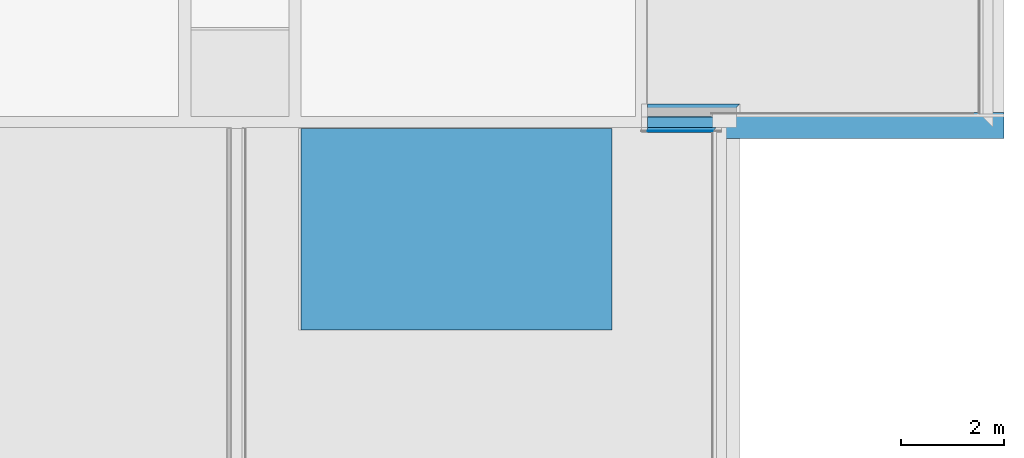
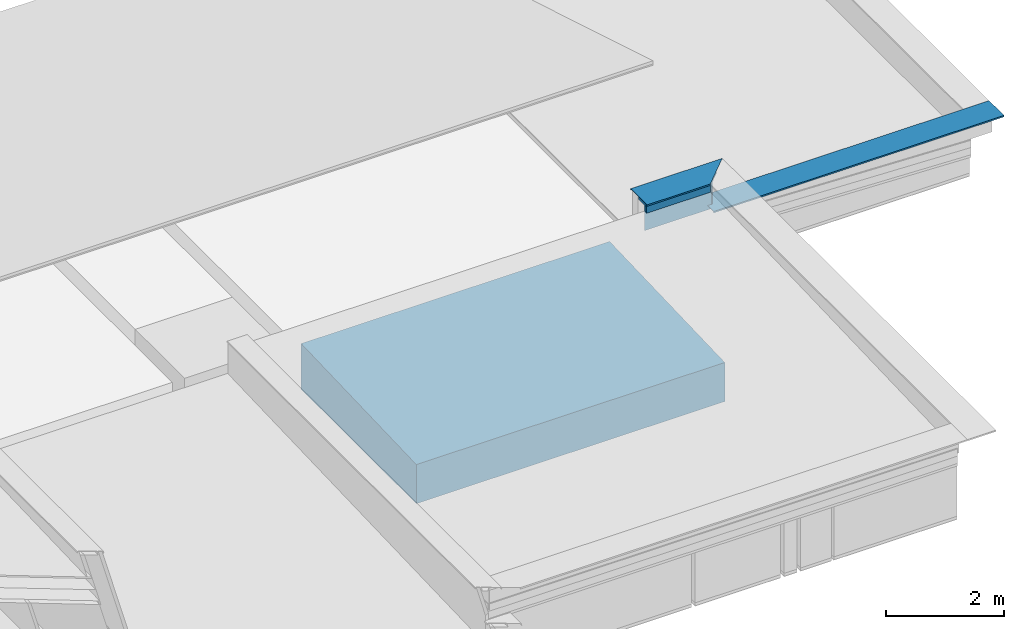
# One storey, part 10 of 13: 6 building element parts, 3 elements without a shape of their own.
"""IFC2X3 building model written with IfcOpenShell, lengths in metres."""

import ifcopenshell
import ifcopenshell.guid

model = None  # the IFC model being written
_history = None  # IfcOwnerHistory: only IFC2X3 demands one
_inside = {}  # id of a spatial element -> (the spatial element, [elements in it])
_under = {}  # id of a project, library or spatial element -> (it, [spatial elements below it])
_declared = {}  # id of a project -> (the project, [libraries it declares])
_typed = {}  # id of a type object -> (the type object, [elements of that type])
_made_of = {}  # id of a material, layer set ... -> (it, [elements and type objects made of it])


def new_model(schema):
    """Start an empty IFC model of exactly this schema.

    Asked for "IFC4X3", IfcOpenShell would pick the latest addendum, in which some entities
    have other attributes; the version numbers below select the first issue.
    IFC2X3 requires an IfcOwnerHistory on every rooted entity: one is made here for all.
    """
    global model, _history
    if schema == "IFC4X3":
        model = ifcopenshell.file(schema_version=(4, 3, 0, 0))
    else:
        model = ifcopenshell.file(schema=schema)
    _inside.clear()
    _under.clear()
    _declared.clear()
    _typed.clear()
    _made_of.clear()
    _history = None
    if model.schema == "IFC2X3":
        org = make("IfcOrganization", Name="unknown")
        user = make(
            "IfcPersonAndOrganization",
            ThePerson=make("IfcPerson", FamilyName="unknown"),
            TheOrganization=org,
        )
        app = make(
            "IfcApplication",
            ApplicationDeveloper=org,
            Version="unknown",
            ApplicationFullName="unknown",
            ApplicationIdentifier="unknown",
        )
        _history = make(
            "IfcOwnerHistory",
            OwningUser=user,
            OwningApplication=app,
            ChangeAction="ADDED",
            CreationDate=0,
        )
    return model


def make(cls, **values):
    """One entity of the class cls with the attributes given. An attribute that is None is left unset."""
    return model.create_entity(
        cls, **{name: value for name, value in values.items() if value is not None}
    )


def entity(cls, *values):
    """Any entity or typed value of the class cls, its attributes in the order of the schema. None: left unset."""
    e = model.create_entity(cls)
    for i, value in enumerate(values):
        if value is not None:
            e[i] = value
    return e


def rooted(cls, **values):
    """An entity with a GlobalId (a new one), such as an element, a storey or a relation."""
    return make(cls, GlobalId=ifcopenshell.guid.new(), OwnerHistory=_history, **values)


def si_unit(unit_type, name, prefix=None):
    """IfcSIUnit, for example si_unit("LENGTHUNIT", "METRE", prefix="MILLI")."""
    return make("IfcSIUnit", UnitType=unit_type, Prefix=prefix, Name=name)


def converted_unit(unit_type, name, factor, base, dimensions=None, offset=None):
    """IfcConversionBasedUnit, such as the inch: factor (a typed value) times the base unit."""
    return make(
        "IfcConversionBasedUnit"
        if offset is None
        else "IfcConversionBasedUnitWithOffset",
        ConversionOffset=offset,
        Dimensions=None
        if dimensions is None
        else entity("IfcDimensionalExponents", *dimensions),
        UnitType=unit_type,
        Name=name,
        ConversionFactor=make(
            "IfcMeasureWithUnit", ValueComponent=factor, UnitComponent=base
        ),
    )


def derived_unit(unit_type, elements):
    """IfcDerivedUnit: a product of units, each with its exponent."""
    return make(
        "IfcDerivedUnit",
        Elements=[
            make("IfcDerivedUnitElement", Unit=unit, Exponent=power)
            for unit, power in elements
        ],
        UnitType=unit_type,
    )


def money_unit(currency):
    """IfcMonetaryUnit."""
    return make("IfcMonetaryUnit", Currency=currency)


def assignment(units):
    """IfcUnitAssignment: the units of a project."""
    return None if units is None else make("IfcUnitAssignment", Units=units)


def point(xyz):
    """IfcCartesianPoint."""
    return None if xyz is None else make("IfcCartesianPoint", Coordinates=xyz)


def direction(xyz):
    """IfcDirection."""
    return None if xyz is None else make("IfcDirection", DirectionRatios=xyz)


def frame(location, z_axis=None, x_axis=None):
    """IfcAxis2Placement3D, a coordinate frame: its origin and axes. An axis left out is left unset."""
    return make(
        "IfcAxis2Placement3D",
        Location=point(location),
        Axis=direction(z_axis),
        RefDirection=direction(x_axis),
    )


def origin_with_axes():
    """The frame at (0, 0, 0) with the z axis (0, 0, 1) and the x axis (1, 0, 0) written out."""
    return frame((0.0, 0.0, 0.0), z_axis=(0.0, 0.0, 1.0), x_axis=(1.0, 0.0, 0.0))


def place(relative_to, where):
    """IfcLocalPlacement: puts the frame where relative to a parent placement (None: the world)."""
    return make(
        "IfcLocalPlacement", PlacementRelTo=relative_to, RelativePlacement=where
    )


def context(
    kind, dimensions, precision=None, world=None, true_north=None, identifier=None
):
    """IfcGeometricRepresentationContext, for example the 3D "Model" context."""
    return make(
        "IfcGeometricRepresentationContext",
        ContextIdentifier=identifier,
        ContextType=kind,
        CoordinateSpaceDimension=dimensions,
        Precision=precision,
        WorldCoordinateSystem=world,
        TrueNorth=true_north,
    )


def subcontext(parent, identifier, kind, view, scale=None):
    """IfcGeometricRepresentationSubContext, for example "Body" below "Model"."""
    return make(
        "IfcGeometricRepresentationSubContext",
        ContextIdentifier=identifier,
        ContextType=kind,
        ParentContext=parent,
        TargetScale=scale,
        TargetView=view,
    )


def project(units=None, contexts=None):
    """IfcProject with its units and contexts."""
    return rooted(
        "IfcProject",
        Name="project",
        RepresentationContexts=contexts,
        UnitsInContext=assignment(units),
    )


def spatial(cls, under=None, at=None, **own):
    """A site, building, storey or space (cls), placed at a placement, below another one or the project."""
    s = rooted(cls, ObjectPlacement=at, **own)
    if under is not None:
        _under.setdefault(under.id(), (under, []))[1].append(s)
    return s


def polyline(points):
    """IfcPolyline through the points."""
    return make("IfcPolyline", Points=[point(p) for p in points])


def outline(outer, holes=None, kind="AREA"):
    """IfcArbitraryClosedProfileDef: a profile drawn as a closed curve; with holes, ...WithVoids."""
    if holes is None:
        return make("IfcArbitraryClosedProfileDef", ProfileType=kind, OuterCurve=outer)
    return make(
        "IfcArbitraryProfileDefWithVoids",
        ProfileType=kind,
        OuterCurve=outer,
        InnerCurves=holes,
    )


def extrude(swept, where, along, depth):
    """IfcExtrudedAreaSolid: the profile swept, set in the frame where, extruded along a direction by depth."""
    return make(
        "IfcExtrudedAreaSolid",
        SweptArea=swept,
        Position=where,
        ExtrudedDirection=direction(along),
        Depth=depth,
    )


def boolean(op, a, b):
    """IfcBooleanResult of two solids."""
    return make("IfcBooleanResult", Operator=op, FirstOperand=a, SecondOperand=b)


def faces_of(points, faces, orient=None, outer=None):
    """IfcFace entities. A face is a list of loops; a loop is a list of indices into points, from 0.

    orient and outer hold one flag for each loop. By default every Orientation is true, the
    first loop of a face is its IfcFaceOuterBound and the others are IfcFaceBound.
    """
    made = []
    for i, loops in enumerate(faces):
        bounds = []
        for j, loop in enumerate(loops):
            is_outer = j == 0 if outer is None else outer[i][j]
            bounds.append(
                make(
                    "IfcFaceOuterBound" if is_outer else "IfcFaceBound",
                    Bound=make("IfcPolyLoop", Polygon=[points[k] for k in loop]),
                    Orientation=True if orient is None else orient[i][j],
                )
            )
        made.append(make("IfcFace", Bounds=bounds))
    return made


def faceted_brep(points, faces, orient=None, outer=None, voids=None):
    """IfcFacetedBrep: a solid bounded by flat faces; with voids (closed shells), ...WithVoids."""
    shared = [point(p) for p in points]
    hull = make("IfcClosedShell", CfsFaces=faces_of(shared, faces, orient, outer))
    if voids is None:
        return make("IfcFacetedBrep", Outer=hull)
    return make(
        "IfcFacetedBrepWithVoids",
        Outer=hull,
        Voids=[
            make(cls, CfsFaces=faces_of(shared, fs, o, b)) for cls, fs, o, b in voids
        ],
    )


def shape(context_of_items, identifier, shape_type, items):
    """IfcShapeRepresentation: the items that make up one representation, for example the "Body"."""
    return make(
        "IfcShapeRepresentation",
        ContextOfItems=context_of_items,
        RepresentationIdentifier=identifier,
        RepresentationType=shape_type,
        Items=items,
    )


def material(Name=None, Category=None):
    """IfcMaterial."""
    return make("IfcMaterial", Name=Name, Category=Category)


def made_of(thing, what):
    """Note that an element or type object is made of a material, layer set ...; save() writes the relation."""
    if what is not None:
        _made_of.setdefault(what.id(), (what, []))[1].append(thing)
    return thing


def type_object(cls, material=None, **own):
    """A type object (cls), such as IfcWallType, which elements share."""
    return made_of(rooted(cls, **own), material)


def element(
    cls,
    number,
    at=None,
    inside=None,
    cuts=None,
    type_object=None,
    material=None,
    context=None,
    identifier="Body",
    shape_type=None,
    held_by="IfcProductDefinitionShape",
    body=None,
    shapes=None,
    **own,
):
    """One element of the class cls, such as IfcWall. Its Tag is "e" and its number.

    at: its placement. inside: the storey or other place that contains it. cuts: it is an
    opening in that element (IfcRelVoidsElement). A single representation is given by context,
    identifier, shape_type and body (its items); several are given by shapes. held_by: the class
    of the entity that holds the representations. save() writes the other relations.
    """
    e = rooted(cls, Tag="e%d" % number, ObjectPlacement=at, **own)
    if body is not None:
        shapes = [shape(context, identifier, shape_type, body)]
    if shapes is not None:
        e.Representation = make(held_by, Representations=shapes)
    if inside is not None:
        _inside.setdefault(inside.id(), (inside, []))[1].append(e)
    if cuts is not None:
        rooted(
            "IfcRelVoidsElement", RelatingBuildingElement=cuts, RelatedOpeningElement=e
        )
    if type_object is not None:
        _typed.setdefault(type_object.id(), (type_object, []))[1].append(e)
    return made_of(e, material)


def aggregate(whole, parts):
    """IfcRelAggregates: a whole, such as a stair, and the parts it consists of."""
    return rooted("IfcRelAggregates", RelatingObject=whole, RelatedObjects=parts)


def save(model, path):
    """Write the relations noted so far, then the file.

    IfcRelAggregates (storeys below a building ...), IfcRelContainedInSpatialStructure (elements
    in a storey), IfcRelDefinesByType, IfcRelAssociatesMaterial and IfcRelDeclares: one each for
    every whole, place, type object, material and project.
    """
    for whole, parts in _under.values():
        aggregate(whole, parts)
    for where, things in _inside.values():
        rooted(
            "IfcRelContainedInSpatialStructure",
            RelatedElements=things,
            RelatingStructure=where,
        )
    for kind, things in _typed.values():
        rooted("IfcRelDefinesByType", RelatedObjects=things, RelatingType=kind)
    for what, things in _made_of.values():
        rooted("IfcRelAssociatesMaterial", RelatedObjects=things, RelatingMaterial=what)
    for by, libraries in _declared.values():
        rooted("IfcRelDeclares", RelatingContext=by, RelatedDefinitions=libraries)
    model.write(path)


model = new_model("IFC2X3")

# Units and contexts
model_context = context("Model", 3, precision=1e-05, world=origin_with_axes(), true_north=direction((0.0, 1.0)))
body_context = subcontext(model_context, "Body", "Model", "MODEL_VIEW")
ifc_project = project(units=[si_unit("LENGTHUNIT", "METRE"), si_unit("AREAUNIT", "SQUARE_METRE"), si_unit("VOLUMEUNIT", "CUBIC_METRE"), converted_unit("PLANEANGLEUNIT", "DEGREE", entity("IfcPlaneAngleMeasure", 0.0174532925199), si_unit("PLANEANGLEUNIT", "RADIAN"), dimensions=[0, 0, 0, 0, 0, 0, 0]), money_unit("CHF"), converted_unit("TIMEUNIT", "Year", entity("IfcTimeMeasure", 31556926.0), si_unit("TIMEUNIT", "SECOND"), dimensions=[0, 0, 1, 0, 0, 0, 0]), si_unit("MASSUNIT", "GRAM", prefix="KILO"), si_unit("THERMODYNAMICTEMPERATUREUNIT", "DEGREE_CELSIUS"), si_unit("LUMINOUSINTENSITYUNIT", "LUMEN"), si_unit("ENERGYUNIT", "JOULE", prefix="MEGA"), derived_unit("THERMALCONDUCTANCEUNIT", [(si_unit("POWERUNIT", "WATT"), 1), (si_unit("LENGTHUNIT", "METRE"), -1), (si_unit("THERMODYNAMICTEMPERATUREUNIT", "KELVIN"), -1)]), derived_unit("SPECIFICHEATCAPACITYUNIT", [(si_unit("ENERGYUNIT", "JOULE"), 1), (si_unit("MASSUNIT", "GRAM", prefix="KILO"), -1), (si_unit("THERMODYNAMICTEMPERATUREUNIT", "KELVIN"), -1)]), derived_unit("MASSDENSITYUNIT", [(si_unit("MASSUNIT", "GRAM", prefix="KILO"), 1), (si_unit("VOLUMEUNIT", "CUBIC_METRE"), -1)])], contexts=[model_context])

# Site, building, storey
site_placement = place(None, origin_with_axes())
site = spatial("IfcSite", under=ifc_project, at=site_placement, Name="Site", CompositionType="ELEMENT")
building_placement = place(site_placement, origin_with_axes())
building = spatial("IfcBuilding", under=site, at=building_placement, Name="Bâtiment", CompositionType="ELEMENT")
storey_placement = place(building_placement, frame((0.0, 0.0, 3.0), z_axis=(0.0, 0.0, 1.0), x_axis=(1.0, 0.0, 0.0)))
storey = spatial("IfcBuildingStorey", under=building, at=storey_placement, Name="Toitures", CompositionType="ELEMENT", Elevation=3.0)

# Slab, building element part
slab_type = type_object("IfcSlabType", Name="Plafond dalles minérale 2570", PredefinedType="FLOOR")
slab_placement = place(storey_placement, frame((31.6294697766, 14.8800000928, 2.47), z_axis=(0.0, 0.0, 1.0), x_axis=(1.0, 0.0, 0.0)))
slab = element("IfcSlab", 1, at=slab_placement, inside=storey, type_object=slab_type, Name="Faux plafonds suspendus", PredefinedType="FLOOR")
ifc_material_1 = material(Name="Vide faux plafond")
building_element_part_1_placement = place(slab_placement, origin_with_axes())
building_element_part_1 = element("IfcBuildingElementPart", 2, at=building_element_part_1_placement, material=ifc_material_1, Name="Vide faux plafond", context=body_context, shape_type="CSG", body=[
    boolean("DIFFERENCE", extrude(outline(polyline([(0.0, 0.0), (-6.03000008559, -1.07356783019e-07), (-6.03000001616, -3.89987444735), (6.94324988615e-08, -3.89987433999), (0.0, 0.0)])), frame((0.0, 0.0, -2.5), z_axis=(0.0, 0.0, 1.0), x_axis=(1.0, 0.0, 0.0)), (0.0, 0.0, 1.0), 2.5), faceted_brep([(6.94324988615e-08, -3.89987433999, -1.69219559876), (0.0, 0.0, -1.55569999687), (0.0, 0.0, 0.0), (6.94324988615e-08, -3.89987433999, 0.0), (-6.03000008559, -1.07356783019e-07, -1.55570000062), (-6.03000001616, -3.89987444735, -1.69219560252), (-6.03000008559, -1.07356783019e-07, 0.0), (-6.03000001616, -3.89987444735, 0.0)], [[[0, 1, 2, 3]], [[4, 1, 0, 5]], [[1, 4, 6, 2]], [[7, 3, 2, 6]], [[5, 0, 3, 7]], [[4, 5, 7, 6]]])),
])
aggregate(slab, [building_element_part_1])

# Beam, building element part
beam_type_1 = type_object("IfcBeamType", Name="couvertine mur iso 505 x 590", PredefinedType="BEAM")
beam_1_placement = place(storey_placement, frame((38.9194697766, 15.0031256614, 0.97), z_axis=(0.0, 0.0, 1.0), x_axis=(0.0, 1.0, 0.0)))
beam_1 = element("IfcBeam", 3, at=beam_1_placement, inside=storey, type_object=beam_type_1, Name="POUTRE-003", ObjectType="BEAM")
ifc_material_2 = material(Name="Aluminium")
building_element_part_2_placement = place(beam_1_placement, origin_with_axes())
building_element_part_2 = element("IfcBuildingElementPart", 4, at=building_element_part_2_placement, material=ifc_material_2, Name="Aluminium", context=body_context, shape_type="CSG", body=[
    boolean("DIFFERENCE", boolean("DIFFERENCE", boolean("DIFFERENCE", boolean("DIFFERENCE", boolean("DIFFERENCE", boolean("DIFFERENCE", boolean("DIFFERENCE", boolean("DIFFERENCE", extrude(outline(polyline([(0.194999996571, -1.56462309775e-09), (-0.31, -1.56462309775e-09), (-0.31, -0.03000000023), (-0.3049999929, -0.03000000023), (-0.3049999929, -0.0049999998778), (-0.100000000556, -0.0049999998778), (0.164999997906, -0.0049999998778), (0.175000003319, -0.0049999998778), (0.189999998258, -0.0049999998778), (0.189999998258, -0.03000000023), (0.194999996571, -0.03000000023), (0.194999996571, -1.56462309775e-09)])), frame((0.0, 5.36502, 0.0), z_axis=(0.0, -1.0, 0.0), x_axis=(1.0, 0.0, 0.0)), (0.0, 0.0, 1.0), 5.67504), faceted_brep([(0.174999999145, 5.365, -0.0896396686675), (0.174999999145, 5.365, -0.411392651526), (0.174999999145, 0.272228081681, -0.589639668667), (0.174999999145, 5.36502, -0.589639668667), (0.174999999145, 5.36502, -0.005), (0.174999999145, 5.34499999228, -0.005), (0.174999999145, 5.34499999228, -0.0896396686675), (0.164999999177, 5.365, -0.0896396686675), (0.164999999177, 5.365, -0.411392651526), (0.164999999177, 0.272228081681, -0.589639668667), (0.164999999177, 5.36502, -0.589639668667), (0.164999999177, 5.36502, -0.0549999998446), (0.164999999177, 5.36502, -0.005), (0.164999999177, 5.34499999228, -0.005), (0.164999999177, 5.34499999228, -0.0549999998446), (0.164999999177, 5.34499999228, -0.0896396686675)], [[[0, 1, 2, 3, 4, 5, 6]], [[1, 0, 7, 8]], [[9, 2, 1, 8]], [[2, 9, 10, 3]], [[3, 10, 11, 12, 4]], [[13, 5, 4, 12]], [[6, 5, 13, 14, 15]], [[0, 6, 15, 7]], [[15, 14, 11, 10, 9, 8, 7]], [[14, 13, 12, 11]]])), faceted_brep([(0.174999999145, 0.174999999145, -0.005), (0.164999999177, 0.164999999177, -0.005), (0.164999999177, -0.31002, -0.005), (0.174999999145, -0.31002, -0.005), (0.164999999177, 0.164999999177, -0.0549999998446), (0.174999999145, 0.174999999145, -0.589639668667), (0.164999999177, 0.164999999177, -0.589639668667), (0.164999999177, -0.31002, -0.0549999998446), (0.164999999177, -0.31002, -0.589639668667), (0.174999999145, -0.31002, -0.589639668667)], [[[0, 1, 2, 3]], [[4, 1, 0, 5, 6]], [[1, 4, 7, 2]], [[3, 2, 7, 8, 9]], [[5, 0, 3, 9]], [[6, 5, 9, 8]], [[4, 6, 8, 7]]])), faceted_brep([(0.116874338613, 5.34499999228, -1.56462309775e-09), (0.116999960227, 5.34499999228, -1.56462309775e-09), (0.116999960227, 4.88, -1.56462309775e-09), (0.194999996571, 4.88, -1.56462309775e-09), (0.194999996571, 5.36502, -1.56462309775e-09), (-0.31, 5.36502, -1.56462309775e-09), (-0.31, 4.88, -1.56462309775e-09), (0.116874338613, 4.88, -1.56462309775e-09), (0.116874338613, 5.07, -1.56462309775e-09), (0.116999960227, 5.34499999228, -0.005), (0.116874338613, 5.34499999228, -0.005), (0.116999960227, 4.88, -0.00499999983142), (0.189999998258, 4.88, -0.03000000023), (0.194999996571, 4.88, -0.03000000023), (0.165, 4.88, -0.005), (0.175000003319, 4.88, -0.0049999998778), (0.189999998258, 4.88, -0.0049999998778), (0.194999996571, 5.36502, -0.03000000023), (-0.31, 5.36502, -0.03000000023), (0.189999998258, 5.36502, -0.03000000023), (0.189999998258, 5.36502, -0.0049999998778), (0.175000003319, 5.36502, -0.0049999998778), (0.164999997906, 5.36502, -0.0049999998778), (-0.100000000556, 5.36502, -0.0049999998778), (-0.3049999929, 5.36502, -0.0049999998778), (-0.3049999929, 5.36502, -0.03000000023), (-0.31, 4.88, -0.03000000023), (0.116874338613, 4.88, -0.00499999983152), (-0.3049999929, 4.88, -0.03000000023), (-0.3049999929, 4.88, -0.0049999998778), (-0.1, 4.88, -0.005), (0.116874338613, 5.07, -0.00499999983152)], [[[0, 1, 2, 3, 4, 5, 6, 7, 8]], [[9, 1, 0, 10]], [[11, 2, 1, 9]], [[12, 13, 3, 2, 11, 14, 15, 16]], [[4, 3, 13, 17]], [[18, 5, 4, 17, 19, 20, 21, 22, 23, 24, 25]], [[18, 26, 6, 5]], [[27, 7, 6, 26, 28, 29, 30]], [[31, 8, 7, 27]], [[10, 0, 8, 31]], [[31, 27, 30, 23, 22, 14, 11, 9, 10]], [[17, 13, 12, 19]], [[21, 15, 14, 22]], [[20, 16, 15, 21]], [[19, 12, 16, 20]], [[23, 30, 29, 24]], [[24, 29, 28, 25]], [[25, 28, 26, 18]]])), faceted_brep([(0.194999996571, -0.31002, -1.56462309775e-09), (0.194999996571, 0.194999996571, -1.56462309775e-09), (-0.31, -0.31, -1.56462309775e-09), (-0.31, -0.31002, -1.56462309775e-09), (0.194999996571, -0.31002, -0.03000000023), (0.194999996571, 0.194999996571, -0.03000000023), (-0.3049999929, -0.3049999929, -0.03000000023), (-0.31, -0.31, -0.03000000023), (0.189999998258, 0.189999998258, -0.03000000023), (0.189999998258, 0.189999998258, -0.0049999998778), (0.175000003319, 0.175000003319, -0.0049999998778), (0.165, 0.165, -0.005), (-0.1, -0.1, -0.005), (-0.3049999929, -0.3049999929, -0.0049999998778), (-0.31, -0.31002, -0.03000000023), (0.189999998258, -0.31002, -0.03000000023), (-0.3049999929, -0.31002, -0.03000000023), (-0.3049999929, -0.31002, -0.0049999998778), (-0.100000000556, -0.31002, -0.0049999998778), (0.164999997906, -0.31002, -0.0049999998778), (0.175000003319, -0.31002, -0.0049999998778), (0.189999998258, -0.31002, -0.0049999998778)], [[[0, 1, 2, 3]], [[4, 5, 1, 0]], [[6, 7, 2, 1, 5, 8, 9, 10, 11, 12, 13]], [[3, 2, 7, 14]], [[15, 4, 0, 3, 14, 16, 17, 18, 19, 20, 21]], [[15, 8, 5, 4]], [[14, 7, 6, 16]], [[21, 9, 8, 15]], [[20, 10, 9, 21]], [[19, 11, 10, 20]], [[18, 12, 11, 19]], [[17, 13, 12, 18]], [[16, 6, 13, 17]]])), faceted_brep([(0.164999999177, 5.34499999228, -0.0896396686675), (0.164999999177, 5.365, -0.0896396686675), (0.164999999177, 5.365, -0.411392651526), (0.164999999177, 0.272228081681, -0.589639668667), (0.164999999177, 5.36502, -0.589639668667), (0.164999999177, 5.36502, -0.0549999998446), (0.164999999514, 5.34499999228, -0.0549999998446), (0.0999999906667, 5.365, -0.0896396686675), (0.0999999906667, 5.34499999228, -0.0896396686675), (0.0999999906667, 5.365, -0.411392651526), (0.0999999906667, 0.272228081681, -0.589639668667), (0.0999999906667, 5.36502, -0.589639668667), (0.0999999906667, 5.36502, -0.0549999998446), (0.0999999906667, 5.34499999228, -0.0549999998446)], [[[0, 1, 2, 3, 4, 5, 6]], [[7, 1, 0, 8]], [[9, 2, 1, 7]], [[9, 10, 3, 2]], [[4, 3, 10, 11]], [[5, 4, 11, 12]], [[12, 13, 6, 5]], [[8, 0, 6, 13]], [[7, 8, 13, 12, 11, 10, 9]]])), faceted_brep([(0.164999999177, -0.31002, -0.0549999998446), (0.16499999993, 0.16499999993, -0.0549999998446), (0.0999999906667, 0.0999999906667, -0.0549999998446), (0.0999999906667, -0.31002, -0.0549999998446), (0.164999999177, -0.31002, -0.589639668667), (0.164999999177, 0.164999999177, -0.589639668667), (0.0999999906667, 0.0999999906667, -0.589639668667), (0.0999999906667, -0.31002, -0.589639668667)], [[[0, 1, 2, 3]], [[4, 5, 1, 0]], [[5, 6, 2, 1]], [[3, 2, 6, 7]], [[0, 3, 7, 4]], [[7, 6, 5, 4]]])), faceted_brep([(-0.1, 5.36502, -0.005), (-0.1, 5.34499999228, -0.005), (0.165, 5.34499999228, -0.005), (0.165, 5.36502, -0.005), (-0.1, 5.36502, -0.055), (-0.1, 5.34499999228, -0.055), (0.0999999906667, 5.34499999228, -0.0549999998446), (0.164999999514, 5.34499999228, -0.055), (0.165, 5.36502, -0.055), (0.0999999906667, 5.36502, -0.0549999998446)], [[[0, 1, 2, 3]], [[4, 5, 1, 0]], [[6, 7, 2, 1, 5]], [[3, 2, 7, 8]], [[9, 4, 0, 3, 8]], [[9, 6, 5, 4]], [[8, 7, 6, 9]]])), faceted_brep([(0.165, -0.31002, -0.005), (0.165, 0.165, -0.005), (-0.1, -0.1, -0.005), (-0.1, -0.31002, -0.005), (0.165, -0.31002, -0.055), (0.16499999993, 0.16499999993, -0.055), (0.0999999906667, 0.0999999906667, -0.0549999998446), (-0.1, -0.1, -0.055), (-0.1, -0.31002, -0.055), (0.0999999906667, -0.31002, -0.0549999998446)], [[[0, 1, 2, 3]], [[4, 5, 1, 0]], [[6, 7, 2, 1, 5]], [[3, 2, 7, 8]], [[4, 0, 3, 8, 9]], [[9, 6, 5, 4]], [[8, 7, 6, 9]]])),
])
aggregate(beam_1, [building_element_part_2])

# Beam, building element parts
beam_type_2 = type_object("IfcBeamType", Name="Couvertine mur bardage 555 x 590", PredefinedType="BEAM")
beam_2_placement = place(storey_placement, frame((33.7494697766, 15.0031256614, 1.47), z_axis=(0.0, 0.0, 1.0), x_axis=(0.0, 1.0, 0.0)))
beam_2 = element("IfcBeam", 5, at=beam_2_placement, inside=storey, type_object=beam_type_2, Name="POUTRE-003", ObjectType="BEAM")
ifc_material_3 = material(Name="Etanchéité")
building_element_part_3_placement = place(beam_2_placement, origin_with_axes())
building_element_part_3 = element("IfcBuildingElementPart", 6, at=building_element_part_3_placement, material=ifc_material_3, Name="Etanchéité", context=body_context, shape_type="CSG", body=[
    boolean("DIFFERENCE", boolean("DIFFERENCE", boolean("DIFFERENCE", boolean("DIFFERENCE", extrude(outline(polyline([(-0.175, -0.589639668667), (-0.165000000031, -0.589639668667), (-0.165000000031, -0.0549999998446), (-0.165000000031, -0.005), (-0.175, -0.005), (-0.175, -0.589639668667)])), frame((0.0, 1.43, 0.0), z_axis=(0.0, -1.0, 0.0), x_axis=(1.0, 0.0, 0.0)), (0.0, 0.0, 1.0), 1.79002000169), faceted_brep([(-0.165000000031, 0.165000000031, -0.0549999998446), (-0.165000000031, 0.165000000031, -0.005), (-0.165000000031, -0.360020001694, -0.005), (-0.165000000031, -0.360020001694, -0.0549999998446), (-0.175, 0.175, -0.005), (-0.165000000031, 0.165000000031, -0.186939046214), (-0.175, 0.175, -0.187289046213), (-0.175, -0.360020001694, -0.005), (-0.175, -0.360020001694, -0.589639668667), (-0.165000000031, -0.360020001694, -0.589639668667), (-0.165000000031, 1.43, -0.589639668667), (-0.165000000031, 1.43, -0.186939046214), (-0.175, 1.43, -0.187289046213), (-0.175, 1.43, -0.589639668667)], [[[0, 1, 2, 3]], [[4, 1, 0, 5, 6]], [[1, 4, 7, 2]], [[2, 7, 8, 9, 3]], [[5, 0, 3, 9, 10, 11]], [[5, 11, 12, 6]], [[6, 12, 13, 8, 7, 4]], [[9, 8, 13, 10]], [[12, 11, 10, 13]]])), faceted_brep([(0.360000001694, -0.360020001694, -0.029999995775), (0.360000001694, -0.360000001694, -0.029999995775), (0.360000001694, -0.360000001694, 3.12924708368e-09), (0.360000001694, -0.360020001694, 3.12924708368e-09), (0.354999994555, -0.360020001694, -0.029999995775), (0.354999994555, -0.354999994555, -0.029999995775), (-0.195, 0.195, -0.029999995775), (-0.195, 0.195, 3.12924708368e-09), (0.354999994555, -0.354999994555, -0.00499999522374), (0.1, -0.1, -0.005), (-0.165, 0.165, -0.005), (-0.174999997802, 0.174999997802, -0.00500000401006), (-0.190000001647, 0.190000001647, -0.00499999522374), (-0.190000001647, 0.190000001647, -0.029999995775), (-0.195, -0.360020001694, 3.12924708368e-09), (-0.195, -0.360020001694, -0.029999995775), (-0.190000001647, -0.360020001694, -0.029999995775), (-0.190000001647, -0.360020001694, -0.00499999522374), (-0.174999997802, -0.360020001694, -0.00500000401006), (-0.165000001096, -0.360020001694, -0.00500000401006), (0.0999999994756, -0.360020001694, -0.00499999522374), (0.354999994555, -0.360020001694, -0.00499999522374)], [[[0, 1, 2, 3]], [[4, 5, 1, 0]], [[6, 7, 2, 1, 5, 8, 9, 10, 11, 12, 13]], [[3, 2, 7, 14]], [[3, 14, 15, 16, 17, 18, 19, 20, 21, 4, 0]], [[21, 8, 5, 4]], [[14, 7, 6, 15]], [[20, 9, 8, 21]], [[19, 10, 9, 20]], [[18, 11, 10, 19]], [[17, 12, 11, 18]], [[16, 13, 12, 17]], [[15, 6, 13, 16]]])), faceted_brep([(-0.0999999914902, -0.360020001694, -0.589639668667), (-0.0999999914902, 0.0999999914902, -0.589639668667), (-0.0999999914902, 0.0999999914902, -0.0549999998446), (-0.0999999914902, -0.360020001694, -0.0549999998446), (-0.103125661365, 0.119999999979, -0.589639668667), (-0.119999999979, 0.119999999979, -0.589639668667), (-0.165, -0.360020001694, -0.589639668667), (-0.165, 1.43, -0.589639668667), (-0.103125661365, 1.43, -0.589639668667), (-0.165, 0.165, -0.186939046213), (-0.165, 0.165, -0.0549999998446), (-0.12, 0.12, -0.185364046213), (-0.165, -0.360020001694, -0.0549999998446), (-0.103125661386, 0.12, -0.184773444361), (-0.165, 1.43, -0.186939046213), (-0.103125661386, 1.43, -0.184773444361)], [[[0, 1, 2, 3]], [[4, 5, 1, 0, 6, 7, 8]], [[9, 10, 2, 1, 5, 11]], [[3, 2, 10, 12]], [[6, 0, 3, 12]], [[11, 5, 4, 13]], [[10, 9, 14, 7, 6, 12]], [[14, 15, 8, 7]], [[13, 4, 8, 15]], [[15, 14, 9, 11, 13]]])), faceted_brep([(0.1, -0.360020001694, -0.055), (0.1, -0.1, -0.055), (0.1, -0.1, -0.005), (0.1, -0.360020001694, -0.005), (-0.0999999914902, -0.360020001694, -0.0549999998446), (-0.0999999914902, 0.0999999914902, -0.0549999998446), (-0.165, 0.165, -0.005), (-0.165, 0.165, -0.055), (-0.165, -0.360020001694, -0.005), (-0.165, -0.360020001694, -0.055)], [[[0, 1, 2, 3]], [[4, 5, 1, 0]], [[6, 2, 1, 5, 7]], [[3, 2, 6, 8]], [[4, 0, 3, 8, 9]], [[9, 7, 5, 4]], [[8, 6, 7, 9]]])),
])
building_element_part_4_placement = place(beam_2_placement, origin_with_axes())
building_element_part_4 = element("IfcBuildingElementPart", 7, at=building_element_part_4_placement, material=ifc_material_2, Name="Aluminium", context=body_context, shape_type="CSG", body=[
    boolean("DIFFERENCE", boolean("DIFFERENCE", boolean("DIFFERENCE", boolean("DIFFERENCE", extrude(outline(polyline([(-0.195, -0.029999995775), (-0.190000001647, -0.029999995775), (-0.190000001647, -0.00499999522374), (-0.174999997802, -0.00500000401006), (-0.165000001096, -0.00500000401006), (0.0999999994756, -0.00499999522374), (0.354999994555, -0.00499999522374), (0.354999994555, -0.029999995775), (0.360000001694, -0.029999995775), (0.360000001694, 3.12924697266e-09), (-0.195, 3.12924697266e-09), (-0.195, -0.029999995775)])), frame((0.0, 1.43, 0.0), z_axis=(0.0, -1.0, 0.0), x_axis=(1.0, 0.0, 0.0)), (0.0, 0.0, 1.0), 1.79002000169), faceted_brep([(-0.165000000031, 0.165000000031, -0.0549999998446), (-0.165000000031, 0.165000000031, -0.005), (-0.165000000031, -0.360020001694, -0.005), (-0.165000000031, -0.360020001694, -0.0549999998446), (-0.175, 0.175, -0.005), (-0.165000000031, 0.165000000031, -0.186939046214), (-0.175, 0.175, -0.187289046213), (-0.175, -0.360020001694, -0.005), (-0.175, -0.360020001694, -0.589639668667), (-0.165000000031, -0.360020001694, -0.589639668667), (-0.165000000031, 1.43, -0.589639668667), (-0.165000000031, 1.43, -0.186939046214), (-0.175, 1.43, -0.187289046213), (-0.175, 1.43, -0.589639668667)], [[[0, 1, 2, 3]], [[4, 1, 0, 5, 6]], [[1, 4, 7, 2]], [[2, 7, 8, 9, 3]], [[5, 0, 3, 9, 10, 11]], [[5, 11, 12, 6]], [[6, 12, 13, 8, 7, 4]], [[9, 8, 13, 10]], [[12, 11, 10, 13]]])), faceted_brep([(0.360000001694, -0.360020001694, -0.029999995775), (0.360000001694, -0.360000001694, -0.029999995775), (0.360000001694, -0.360000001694, 3.12924708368e-09), (0.360000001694, -0.360020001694, 3.12924708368e-09), (0.354999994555, -0.360020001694, -0.029999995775), (0.354999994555, -0.354999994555, -0.029999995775), (-0.195, 0.195, -0.029999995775), (-0.195, 0.195, 3.12924708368e-09), (0.354999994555, -0.354999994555, -0.00499999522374), (0.1, -0.1, -0.005), (-0.165, 0.165, -0.005), (-0.174999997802, 0.174999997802, -0.00500000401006), (-0.190000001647, 0.190000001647, -0.00499999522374), (-0.190000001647, 0.190000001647, -0.029999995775), (-0.195, -0.360020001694, 3.12924708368e-09), (-0.195, -0.360020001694, -0.029999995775), (-0.190000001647, -0.360020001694, -0.029999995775), (-0.190000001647, -0.360020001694, -0.00499999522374), (-0.174999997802, -0.360020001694, -0.00500000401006), (-0.165000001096, -0.360020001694, -0.00500000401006), (0.0999999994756, -0.360020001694, -0.00499999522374), (0.354999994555, -0.360020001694, -0.00499999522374)], [[[0, 1, 2, 3]], [[4, 5, 1, 0]], [[6, 7, 2, 1, 5, 8, 9, 10, 11, 12, 13]], [[3, 2, 7, 14]], [[3, 14, 15, 16, 17, 18, 19, 20, 21, 4, 0]], [[21, 8, 5, 4]], [[14, 7, 6, 15]], [[20, 9, 8, 21]], [[19, 10, 9, 20]], [[18, 11, 10, 19]], [[17, 12, 11, 18]], [[16, 13, 12, 17]], [[15, 6, 13, 16]]])), faceted_brep([(-0.0999999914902, -0.360020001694, -0.589639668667), (-0.0999999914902, 0.0999999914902, -0.589639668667), (-0.0999999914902, 0.0999999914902, -0.0549999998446), (-0.0999999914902, -0.360020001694, -0.0549999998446), (-0.103125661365, 0.119999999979, -0.589639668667), (-0.119999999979, 0.119999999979, -0.589639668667), (-0.165, -0.360020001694, -0.589639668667), (-0.165, 1.43, -0.589639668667), (-0.103125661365, 1.43, -0.589639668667), (-0.165, 0.165, -0.186939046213), (-0.165, 0.165, -0.0549999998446), (-0.12, 0.12, -0.185364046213), (-0.165, -0.360020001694, -0.0549999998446), (-0.103125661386, 0.12, -0.184773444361), (-0.165, 1.43, -0.186939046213), (-0.103125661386, 1.43, -0.184773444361)], [[[0, 1, 2, 3]], [[4, 5, 1, 0, 6, 7, 8]], [[9, 10, 2, 1, 5, 11]], [[3, 2, 10, 12]], [[6, 0, 3, 12]], [[11, 5, 4, 13]], [[10, 9, 14, 7, 6, 12]], [[14, 15, 8, 7]], [[13, 4, 8, 15]], [[15, 14, 9, 11, 13]]])), faceted_brep([(0.1, -0.360020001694, -0.055), (0.1, -0.1, -0.055), (0.1, -0.1, -0.005), (0.1, -0.360020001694, -0.005), (-0.0999999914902, -0.360020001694, -0.0549999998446), (-0.0999999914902, 0.0999999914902, -0.0549999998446), (-0.165, 0.165, -0.005), (-0.165, 0.165, -0.055), (-0.165, -0.360020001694, -0.005), (-0.165, -0.360020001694, -0.055)], [[[0, 1, 2, 3]], [[4, 5, 1, 0]], [[6, 2, 1, 5, 7]], [[3, 2, 6, 8]], [[4, 0, 3, 8, 9]], [[9, 7, 5, 4]], [[8, 6, 7, 9]]])),
])
ifc_material_4 = material(Name="Isolation - Polyuréthane (extérieur)")
building_element_part_5_placement = place(beam_2_placement, origin_with_axes())
building_element_part_5 = element("IfcBuildingElementPart", 8, at=building_element_part_5_placement, material=ifc_material_4, Name="Isolation - Polyuréthane (extérieur)", context=body_context, shape_type="CSG", body=[
    boolean("DIFFERENCE", boolean("DIFFERENCE", boolean("DIFFERENCE", boolean("DIFFERENCE", extrude(outline(polyline([(-0.0999999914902, -0.0549999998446), (-0.165, -0.0549999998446), (-0.165, -0.589639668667), (-0.0999999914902, -0.589639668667), (-0.0999999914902, -0.0549999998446)])), frame((0.0, 1.43, 0.0), z_axis=(0.0, -1.0, 0.0), x_axis=(1.0, 0.0, 0.0)), (0.0, 0.0, 1.0), 1.79002000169), faceted_brep([(-0.165000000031, 0.165000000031, -0.0549999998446), (-0.165000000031, 0.165000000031, -0.005), (-0.165000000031, -0.360020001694, -0.005), (-0.165000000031, -0.360020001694, -0.0549999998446), (-0.175, 0.175, -0.005), (-0.165000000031, 0.165000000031, -0.186939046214), (-0.175, 0.175, -0.187289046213), (-0.175, -0.360020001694, -0.005), (-0.175, -0.360020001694, -0.589639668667), (-0.165000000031, -0.360020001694, -0.589639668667), (-0.165000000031, 1.43, -0.589639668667), (-0.165000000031, 1.43, -0.186939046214), (-0.175, 1.43, -0.187289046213), (-0.175, 1.43, -0.589639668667)], [[[0, 1, 2, 3]], [[4, 1, 0, 5, 6]], [[1, 4, 7, 2]], [[2, 7, 8, 9, 3]], [[5, 0, 3, 9, 10, 11]], [[5, 11, 12, 6]], [[6, 12, 13, 8, 7, 4]], [[9, 8, 13, 10]], [[12, 11, 10, 13]]])), faceted_brep([(0.360000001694, -0.360020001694, -0.029999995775), (0.360000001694, -0.360000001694, -0.029999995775), (0.360000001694, -0.360000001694, 3.12924708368e-09), (0.360000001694, -0.360020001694, 3.12924708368e-09), (0.354999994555, -0.360020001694, -0.029999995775), (0.354999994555, -0.354999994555, -0.029999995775), (-0.195, 0.195, -0.029999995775), (-0.195, 0.195, 3.12924708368e-09), (0.354999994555, -0.354999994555, -0.00499999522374), (0.1, -0.1, -0.005), (-0.165, 0.165, -0.005), (-0.174999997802, 0.174999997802, -0.00500000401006), (-0.190000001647, 0.190000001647, -0.00499999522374), (-0.190000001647, 0.190000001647, -0.029999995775), (-0.195, -0.360020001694, 3.12924708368e-09), (-0.195, -0.360020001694, -0.029999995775), (-0.190000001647, -0.360020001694, -0.029999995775), (-0.190000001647, -0.360020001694, -0.00499999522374), (-0.174999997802, -0.360020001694, -0.00500000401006), (-0.165000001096, -0.360020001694, -0.00500000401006), (0.0999999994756, -0.360020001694, -0.00499999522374), (0.354999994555, -0.360020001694, -0.00499999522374)], [[[0, 1, 2, 3]], [[4, 5, 1, 0]], [[6, 7, 2, 1, 5, 8, 9, 10, 11, 12, 13]], [[3, 2, 7, 14]], [[3, 14, 15, 16, 17, 18, 19, 20, 21, 4, 0]], [[21, 8, 5, 4]], [[14, 7, 6, 15]], [[20, 9, 8, 21]], [[19, 10, 9, 20]], [[18, 11, 10, 19]], [[17, 12, 11, 18]], [[16, 13, 12, 17]], [[15, 6, 13, 16]]])), faceted_brep([(-0.0999999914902, -0.360020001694, -0.589639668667), (-0.0999999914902, 0.0999999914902, -0.589639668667), (-0.0999999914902, 0.0999999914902, -0.0549999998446), (-0.0999999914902, -0.360020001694, -0.0549999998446), (-0.103125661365, 0.119999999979, -0.589639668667), (-0.119999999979, 0.119999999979, -0.589639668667), (-0.165, -0.360020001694, -0.589639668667), (-0.165, 1.43, -0.589639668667), (-0.103125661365, 1.43, -0.589639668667), (-0.165, 0.165, -0.186939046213), (-0.165, 0.165, -0.0549999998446), (-0.12, 0.12, -0.185364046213), (-0.165, -0.360020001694, -0.0549999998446), (-0.103125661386, 0.12, -0.184773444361), (-0.165, 1.43, -0.186939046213), (-0.103125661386, 1.43, -0.184773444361)], [[[0, 1, 2, 3]], [[4, 5, 1, 0, 6, 7, 8]], [[9, 10, 2, 1, 5, 11]], [[3, 2, 10, 12]], [[6, 0, 3, 12]], [[11, 5, 4, 13]], [[10, 9, 14, 7, 6, 12]], [[14, 15, 8, 7]], [[13, 4, 8, 15]], [[15, 14, 9, 11, 13]]])), faceted_brep([(0.1, -0.360020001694, -0.055), (0.1, -0.1, -0.055), (0.1, -0.1, -0.005), (0.1, -0.360020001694, -0.005), (-0.0999999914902, -0.360020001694, -0.0549999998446), (-0.0999999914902, 0.0999999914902, -0.0549999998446), (-0.165, 0.165, -0.005), (-0.165, 0.165, -0.055), (-0.165, -0.360020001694, -0.005), (-0.165, -0.360020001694, -0.055)], [[[0, 1, 2, 3]], [[4, 5, 1, 0]], [[6, 2, 1, 5, 7]], [[3, 2, 6, 8]], [[4, 0, 3, 8, 9]], [[9, 7, 5, 4]], [[8, 6, 7, 9]]])),
])
building_element_part_6_placement = place(beam_2_placement, origin_with_axes())
building_element_part_6 = element("IfcBuildingElementPart", 9, at=building_element_part_6_placement, material=ifc_material_4, Name="Isolation - Polyuréthane (extérieur)", context=body_context, shape_type="CSG", body=[
    boolean("DIFFERENCE", boolean("DIFFERENCE", boolean("DIFFERENCE", boolean("DIFFERENCE", extrude(outline(polyline([(0.1, -0.005), (-0.165, -0.005), (-0.165, -0.055), (-0.0999999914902, -0.0549999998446), (0.1, -0.055), (0.1, -0.005)])), frame((0.0, 1.43, 0.0), z_axis=(0.0, -1.0, 0.0), x_axis=(1.0, 0.0, 0.0)), (0.0, 0.0, 1.0), 1.79002000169), faceted_brep([(-0.165000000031, 0.165000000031, -0.0549999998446), (-0.165000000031, 0.165000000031, -0.005), (-0.165000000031, -0.360020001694, -0.005), (-0.165000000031, -0.360020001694, -0.0549999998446), (-0.175, 0.175, -0.005), (-0.165000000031, 0.165000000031, -0.186939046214), (-0.175, 0.175, -0.187289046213), (-0.175, -0.360020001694, -0.005), (-0.175, -0.360020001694, -0.589639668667), (-0.165000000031, -0.360020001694, -0.589639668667), (-0.165000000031, 1.43, -0.589639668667), (-0.165000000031, 1.43, -0.186939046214), (-0.175, 1.43, -0.187289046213), (-0.175, 1.43, -0.589639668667)], [[[0, 1, 2, 3]], [[4, 1, 0, 5, 6]], [[1, 4, 7, 2]], [[2, 7, 8, 9, 3]], [[5, 0, 3, 9, 10, 11]], [[5, 11, 12, 6]], [[6, 12, 13, 8, 7, 4]], [[9, 8, 13, 10]], [[12, 11, 10, 13]]])), faceted_brep([(0.360000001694, -0.360020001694, -0.029999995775), (0.360000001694, -0.360000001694, -0.029999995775), (0.360000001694, -0.360000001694, 3.12924708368e-09), (0.360000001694, -0.360020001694, 3.12924708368e-09), (0.354999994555, -0.360020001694, -0.029999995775), (0.354999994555, -0.354999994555, -0.029999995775), (-0.195, 0.195, -0.029999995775), (-0.195, 0.195, 3.12924708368e-09), (0.354999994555, -0.354999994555, -0.00499999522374), (0.1, -0.1, -0.005), (-0.165, 0.165, -0.005), (-0.174999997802, 0.174999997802, -0.00500000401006), (-0.190000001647, 0.190000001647, -0.00499999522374), (-0.190000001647, 0.190000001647, -0.029999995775), (-0.195, -0.360020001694, 3.12924708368e-09), (-0.195, -0.360020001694, -0.029999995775), (-0.190000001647, -0.360020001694, -0.029999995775), (-0.190000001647, -0.360020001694, -0.00499999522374), (-0.174999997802, -0.360020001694, -0.00500000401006), (-0.165000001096, -0.360020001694, -0.00500000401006), (0.0999999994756, -0.360020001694, -0.00499999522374), (0.354999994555, -0.360020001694, -0.00499999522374)], [[[0, 1, 2, 3]], [[4, 5, 1, 0]], [[6, 7, 2, 1, 5, 8, 9, 10, 11, 12, 13]], [[3, 2, 7, 14]], [[3, 14, 15, 16, 17, 18, 19, 20, 21, 4, 0]], [[21, 8, 5, 4]], [[14, 7, 6, 15]], [[20, 9, 8, 21]], [[19, 10, 9, 20]], [[18, 11, 10, 19]], [[17, 12, 11, 18]], [[16, 13, 12, 17]], [[15, 6, 13, 16]]])), faceted_brep([(-0.0999999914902, -0.360020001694, -0.589639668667), (-0.0999999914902, 0.0999999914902, -0.589639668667), (-0.0999999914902, 0.0999999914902, -0.0549999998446), (-0.0999999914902, -0.360020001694, -0.0549999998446), (-0.103125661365, 0.119999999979, -0.589639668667), (-0.119999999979, 0.119999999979, -0.589639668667), (-0.165, -0.360020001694, -0.589639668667), (-0.165, 1.43, -0.589639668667), (-0.103125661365, 1.43, -0.589639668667), (-0.165, 0.165, -0.186939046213), (-0.165, 0.165, -0.0549999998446), (-0.12, 0.12, -0.185364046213), (-0.165, -0.360020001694, -0.0549999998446), (-0.103125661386, 0.12, -0.184773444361), (-0.165, 1.43, -0.186939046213), (-0.103125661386, 1.43, -0.184773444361)], [[[0, 1, 2, 3]], [[4, 5, 1, 0, 6, 7, 8]], [[9, 10, 2, 1, 5, 11]], [[3, 2, 10, 12]], [[6, 0, 3, 12]], [[11, 5, 4, 13]], [[10, 9, 14, 7, 6, 12]], [[14, 15, 8, 7]], [[13, 4, 8, 15]], [[15, 14, 9, 11, 13]]])), faceted_brep([(0.1, -0.360020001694, -0.055), (0.1, -0.1, -0.055), (0.1, -0.1, -0.005), (0.1, -0.360020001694, -0.005), (-0.0999999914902, -0.360020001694, -0.0549999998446), (-0.0999999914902, 0.0999999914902, -0.0549999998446), (-0.165, 0.165, -0.005), (-0.165, 0.165, -0.055), (-0.165, -0.360020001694, -0.005), (-0.165, -0.360020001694, -0.055)], [[[0, 1, 2, 3]], [[4, 5, 1, 0]], [[6, 2, 1, 5, 7]], [[3, 2, 6, 8]], [[4, 0, 3, 8, 9]], [[9, 7, 5, 4]], [[8, 6, 7, 9]]])),
])
aggregate(beam_2, [building_element_part_3, building_element_part_4, building_element_part_5, building_element_part_6])

save(model, "model.ifc")
